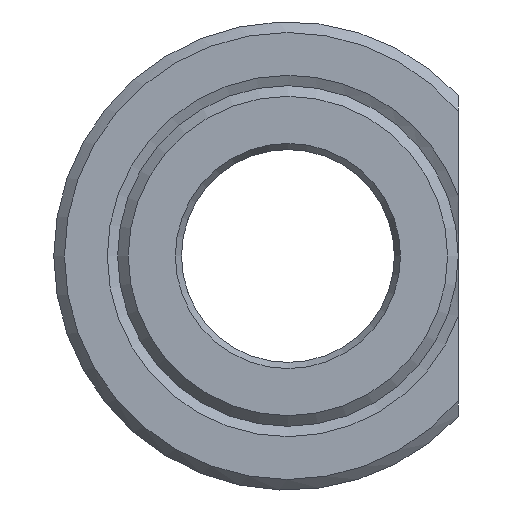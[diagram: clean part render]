
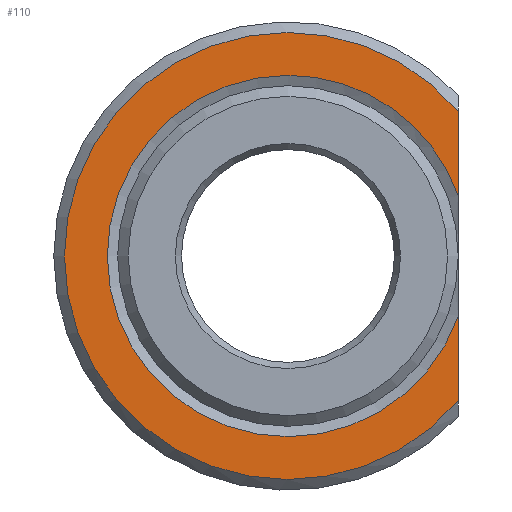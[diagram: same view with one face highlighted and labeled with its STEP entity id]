
A CAD part, left-side view. The second image highlights one B-rep face of the part: STEP entity #110.
In plain terms, the highlighted planar face has unit normal (-1, 0, 0).
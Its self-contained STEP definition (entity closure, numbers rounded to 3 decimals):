
#110=ADVANCED_FACE('',(#220),#221,.F.);
#220=FACE_OUTER_BOUND('',#318,.T.);
#221=PLANE('',#319);
#318=EDGE_LOOP('',(#481,#482,#483,#484));
#319=AXIS2_PLACEMENT_3D('',#485,#486,#487);
#481=ORIENTED_EDGE('',*,*,#528,.T.);
#482=ORIENTED_EDGE('',*,*,#508,.F.);
#483=ORIENTED_EDGE('',*,*,#492,.F.);
#484=ORIENTED_EDGE('',*,*,#518,.F.);
#485=CARTESIAN_POINT('',(0.0,8.0,0.0));
#486=DIRECTION('',(1.0,0.0,0.0));
#487=DIRECTION('',(0.0,0.0,-1.0));
#492=EDGE_CURVE('',#553,#552,#555,.T.);
#508=EDGE_CURVE('',#552,#579,#580,.T.);
#518=EDGE_CURVE('',#597,#553,#599,.T.);
#528=EDGE_CURVE('',#597,#579,#611,.F.);
#552=VERTEX_POINT('',#641);
#553=VERTEX_POINT('',#642);
#555=CIRCLE('',#648,8.487);
#579=VERTEX_POINT('',#672);
#580=LINE('',#673,#674);
#597=VERTEX_POINT('',#711);
#599=LINE('',#716,#717);
#611=CIRCLE('',#729,10.5);
#641=CARTESIAN_POINT('',(0.0,-8.0,-2.833));
#642=CARTESIAN_POINT('',(0.,-8.0,2.833));
#648=AXIS2_PLACEMENT_3D('',#759,#760,#761);
#672=CARTESIAN_POINT('',(0.0,-8.0,-6.801));
#673=CARTESIAN_POINT('',(0.0,-8.0,0.0));
#674=VECTOR('',#786,1.0);
#711=CARTESIAN_POINT('',(0.0,-8.0,6.801));
#716=CARTESIAN_POINT('',(0.0,-8.0,0.0));
#717=VECTOR('',#791,1.0);
#729=AXIS2_PLACEMENT_3D('',#804,#805,#806);
#759=CARTESIAN_POINT('',(0.,0.0,0.0));
#760=DIRECTION('',(-1.0,0.0,0.0));
#761=DIRECTION('',(0.0,0.0,1.0));
#786=DIRECTION('',(0.0,0.,-1.0));
#791=DIRECTION('',(0.0,0.,-1.0));
#804=CARTESIAN_POINT('',(0.0,0.0,0.0));
#805=DIRECTION('',(1.0,0.0,0.0));
#806=DIRECTION('',(0.0,0.0,-1.0));
